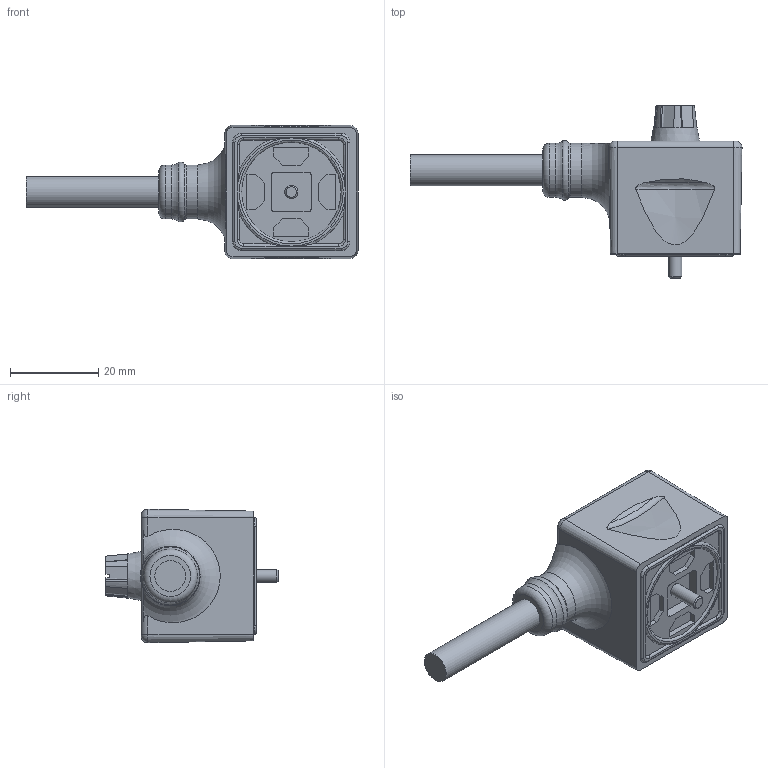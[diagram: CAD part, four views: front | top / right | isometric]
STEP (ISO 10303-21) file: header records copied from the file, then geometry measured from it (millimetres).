
FILE_DESCRIPTION(/* description */ ('STEP AP203'),/* implementation_level */ '2;1');
FILE_NAME(/* name */ 'P_MZ_SUV_0754',/* time_stamp */ '2025-05-05T09:37:21+02:00',/* author */ ('License CC BY-ND 4.0'),/* organization */ ('CADENAS'),/* preprocessor_version */ 'ST-DEVELOPER v19.3',/* originating_system */ 'PARTsolutions',/* authorisation */ ' ');
FILE_SCHEMA (('CONFIG_CONTROL_DESIGN'));
Length unit declared in the file: millimetre
Products named in the file (1): P_MZ_SUV_0754
Bounding box: 75.09 x 39 x 30.18 mm (x, y, z)
Volume: 25976.4 mm3; surface area: 6413.8 mm2
Topology: 1 solids, 1 shells, 153 faces, 380 edges, 242 vertices
Faces by surface type: plane 73, cylinder 28, torus 24, bspline 18, cone 10
Full cylindrical faces by diameter (mm): 3 x1, 7 x1, 12.2 x2
Entity records: 5818 total; most frequent: CARTESIAN_POINT 1162, ORIENTED_EDGE 734, DIRECTION 720, EDGE_CURVE 367, AXIS2_PLACEMENT_3D 251, VERTEX_POINT 240, LINE 218, VECTOR 218
